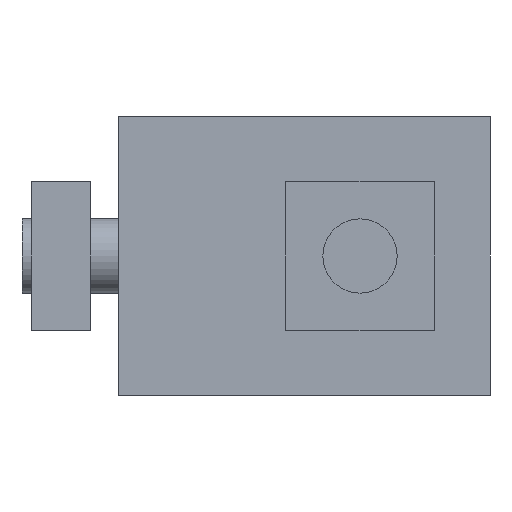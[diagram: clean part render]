
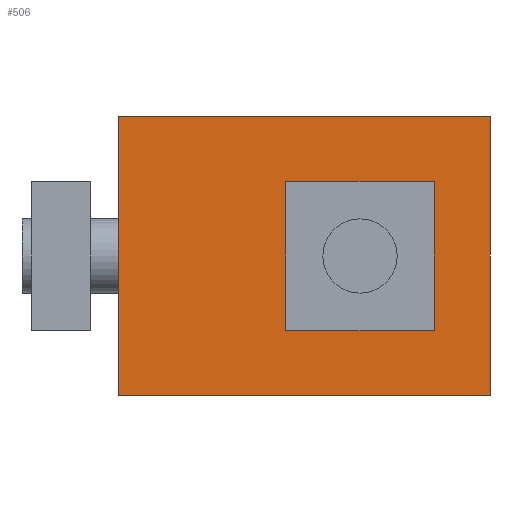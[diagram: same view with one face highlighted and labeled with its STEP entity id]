
A CAD part, front view. The second image highlights one B-rep face of the part: STEP entity #506.
In plain terms, the highlighted planar face has unit normal (0, -1, 0).
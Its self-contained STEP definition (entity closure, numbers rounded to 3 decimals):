
#359=CARTESIAN_POINT('',(15.25,0.,0.0));
#360=VERTEX_POINT('',#359);
#361=CARTESIAN_POINT('',(13.,0.,0.0));
#362=DIRECTION('',(0.0,1.0,0.0));
#363=DIRECTION('',(1.0,0.0,0.0));
#364=AXIS2_PLACEMENT_3D('',#361,#362,#363);
#365=CIRCLE('',#364,2.25);
#366=EDGE_CURVE('',#360,#360,#365,.T.);
#393=CARTESIAN_POINT('',(20.,0.,-7.5));
#394=VERTEX_POINT('',#393);
#402=CARTESIAN_POINT('',(0.,0.,-7.5));
#403=VERTEX_POINT('',#402);
#404=CARTESIAN_POINT('',(0.,0.,-7.5));
#405=DIRECTION('',(1.0,0.0,0.0));
#406=VECTOR('',#405,20.);
#407=LINE('',#404,#406);
#408=EDGE_CURVE('',#403,#394,#407,.T.);
#460=CARTESIAN_POINT('',(20.,0.,7.5));
#461=VERTEX_POINT('',#460);
#469=CARTESIAN_POINT('',(20.,0.,7.5));
#470=DIRECTION('',(0.0,0.0,-1.0));
#471=VECTOR('',#470,15.);
#472=LINE('',#469,#471);
#473=EDGE_CURVE('',#461,#394,#472,.T.);
#480=CARTESIAN_POINT('',(20.,0.,0.0));
#481=DIRECTION('',(0.0,-1.0,0.0));
#482=DIRECTION('',(0.0,0.0,-1.0));
#483=AXIS2_PLACEMENT_3D('',#480,#481,#482);
#484=PLANE('',#483);
#485=CARTESIAN_POINT('',(0.,0.,7.5));
#486=VERTEX_POINT('',#485);
#487=CARTESIAN_POINT('',(20.,0.,7.5));
#488=DIRECTION('',(-1.0,0.0,0.0));
#489=VECTOR('',#488,20.);
#490=LINE('',#487,#489);
#491=EDGE_CURVE('',#461,#486,#490,.T.);
#492=ORIENTED_EDGE('',*,*,#491,.T.);
#493=CARTESIAN_POINT('',(0.,0.,7.5));
#494=DIRECTION('',(0.0,0.0,-1.0));
#495=VECTOR('',#494,15.);
#496=LINE('',#493,#495);
#497=EDGE_CURVE('',#486,#403,#496,.T.);
#498=ORIENTED_EDGE('',*,*,#497,.T.);
#499=ORIENTED_EDGE('',*,*,#408,.T.);
#500=ORIENTED_EDGE('',*,*,#473,.F.);
#501=EDGE_LOOP('',(#492,#498,#499,#500));
#502=FACE_OUTER_BOUND('',#501,.T.);
#503=ORIENTED_EDGE('',*,*,#366,.T.);
#504=EDGE_LOOP('',(#503));
#505=FACE_BOUND('',#504,.T.);
#506=ADVANCED_FACE('',(#502,#505),#484,.T.);
